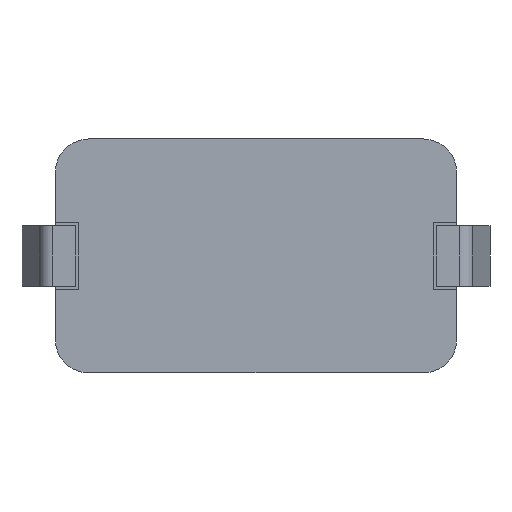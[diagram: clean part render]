
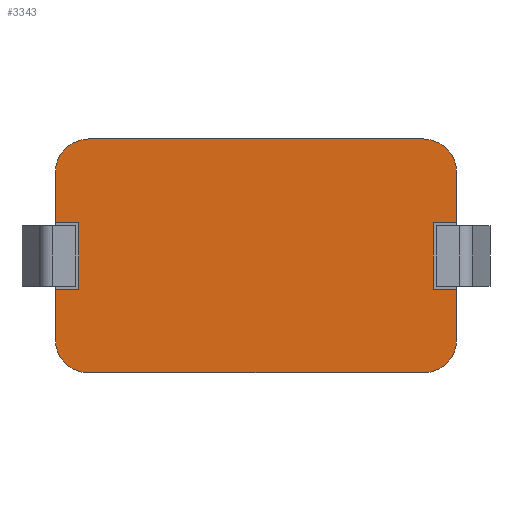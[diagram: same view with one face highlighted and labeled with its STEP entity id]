
A CAD part, front view. The second image highlights one B-rep face of the part: STEP entity #3343.
In plain terms, the highlighted planar face has unit normal (0, -1, 0).
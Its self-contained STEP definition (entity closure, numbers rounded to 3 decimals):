
#1537=DIRECTION('',(-1.,0.,0.));
#1538=VECTOR('',#1537,0.35);
#1539=CARTESIAN_POINT('',(3.,-3.1,-0.5));
#1540=LINE('',#1539,#1538);
#1544=DIRECTION('',(0.,0.,-1.));
#1545=VECTOR('',#1544,0.75);
#1546=CARTESIAN_POINT('',(3.,-3.1,-0.5));
#1547=LINE('',#1546,#1545);
#1551=CARTESIAN_POINT('',(2.5,-3.1,-1.25));
#1552=DIRECTION('',(0.,-1.,0.));
#1553=DIRECTION('',(0.,0.,-1.));
#1554=AXIS2_PLACEMENT_3D('',#1551,#1552,#1553);
#1559=DIRECTION('',(-1.,0.,0.));
#1560=VECTOR('',#1559,5.);
#1561=CARTESIAN_POINT('',(2.5,-3.1,-1.75));
#1562=LINE('',#1561,#1560);
#1566=CARTESIAN_POINT('',(-2.5,-3.1,-1.25));
#1567=DIRECTION('',(0.,-1.,0.));
#1568=DIRECTION('',(-1.,0.,0.));
#1569=AXIS2_PLACEMENT_3D('',#1566,#1567,#1568);
#1574=DIRECTION('',(0.,0.,1.));
#1575=VECTOR('',#1574,0.75);
#1576=CARTESIAN_POINT('',(-3.,-3.1,-1.25));
#1577=LINE('',#1576,#1575);
#1581=DIRECTION('',(1.,0.,0.));
#1582=VECTOR('',#1581,0.35);
#1583=CARTESIAN_POINT('',(-3.,-3.1,-0.5));
#1584=LINE('',#1583,#1582);
#1588=DIRECTION('',(0.,0.,1.));
#1589=VECTOR('',#1588,1.);
#1590=CARTESIAN_POINT('',(-2.65,-3.1,-0.5));
#1591=LINE('',#1590,#1589);
#1595=DIRECTION('',(-1.,0.,0.));
#1596=VECTOR('',#1595,0.35);
#1597=CARTESIAN_POINT('',(-2.65,-3.1,0.5));
#1598=LINE('',#1597,#1596);
#1602=DIRECTION('',(0.,0.,1.));
#1603=VECTOR('',#1602,0.75);
#1604=CARTESIAN_POINT('',(-3.,-3.1,0.5));
#1605=LINE('',#1604,#1603);
#1609=CARTESIAN_POINT('',(-2.5,-3.1,1.25));
#1610=DIRECTION('',(0.,-1.,0.));
#1611=DIRECTION('',(0.,0.,1.));
#1612=AXIS2_PLACEMENT_3D('',#1609,#1610,#1611);
#1617=DIRECTION('',(1.,0.,0.));
#1618=VECTOR('',#1617,5.);
#1619=CARTESIAN_POINT('',(-2.5,-3.1,1.75));
#1620=LINE('',#1619,#1618);
#1624=CARTESIAN_POINT('',(2.5,-3.1,1.25));
#1625=DIRECTION('',(0.,-1.,0.));
#1626=DIRECTION('',(1.,0.,0.));
#1627=AXIS2_PLACEMENT_3D('',#1624,#1625,#1626);
#1632=DIRECTION('',(0.,0.,-1.));
#1633=VECTOR('',#1632,0.75);
#1634=CARTESIAN_POINT('',(3.,-3.1,1.25));
#1635=LINE('',#1634,#1633);
#1639=DIRECTION('',(1.,0.,0.));
#1640=VECTOR('',#1639,0.35);
#1641=CARTESIAN_POINT('',(2.65,-3.1,0.5));
#1642=LINE('',#1641,#1640);
#1646=DIRECTION('',(0.,0.,1.));
#1647=VECTOR('',#1646,1.);
#1648=CARTESIAN_POINT('',(2.65,-3.1,-0.5));
#1649=LINE('',#1648,#1647);
#2253=CARTESIAN_POINT('',(-2.5,-3.1,1.75));
#2254=CARTESIAN_POINT('',(-3.,-3.1,1.25));
#2255=VERTEX_POINT('',#2253);
#2256=VERTEX_POINT('',#2254);
#2261=CARTESIAN_POINT('',(3.,-3.1,1.25));
#2262=CARTESIAN_POINT('',(2.5,-3.1,1.75));
#2263=VERTEX_POINT('',#2261);
#2264=VERTEX_POINT('',#2262);
#2269=CARTESIAN_POINT('',(-3.,-3.1,-1.25));
#2270=CARTESIAN_POINT('',(-2.5,-3.1,-1.75));
#2271=VERTEX_POINT('',#2269);
#2272=VERTEX_POINT('',#2270);
#2277=CARTESIAN_POINT('',(2.5,-3.1,-1.75));
#2278=CARTESIAN_POINT('',(3.,-3.1,-1.25));
#2279=VERTEX_POINT('',#2277);
#2280=VERTEX_POINT('',#2278);
#2373=CARTESIAN_POINT('',(-3.,-3.1,-0.5));
#2374=CARTESIAN_POINT('',(-2.65,-3.1,-0.5));
#2375=VERTEX_POINT('',#2373);
#2376=VERTEX_POINT('',#2374);
#2377=CARTESIAN_POINT('',(-2.65,-3.1,0.5));
#2378=VERTEX_POINT('',#2377);
#2379=CARTESIAN_POINT('',(-3.,-3.1,0.5));
#2380=VERTEX_POINT('',#2379);
#2409=CARTESIAN_POINT('',(2.65,-3.1,-0.5));
#2410=VERTEX_POINT('',#2409);
#2411=CARTESIAN_POINT('',(2.65,-3.1,0.5));
#2412=VERTEX_POINT('',#2411);
#2417=CARTESIAN_POINT('',(3.,-3.1,-0.5));
#2418=VERTEX_POINT('',#2417);
#2419=CARTESIAN_POINT('',(3.,-3.1,0.5));
#2420=VERTEX_POINT('',#2419);
#3305=CARTESIAN_POINT('',(0.,-3.1,0.));
#3306=DIRECTION('',(0.,1.,0.));
#3307=DIRECTION('',(1.,0.,0.));
#3308=AXIS2_PLACEMENT_3D('',#3305,#3306,#3307);
#3309=PLANE('',#3308);
#3311=ORIENTED_EDGE('',*,*,#3310,.F.);
#3313=ORIENTED_EDGE('',*,*,#3312,.T.);
#3315=ORIENTED_EDGE('',*,*,#3314,.F.);
#3317=ORIENTED_EDGE('',*,*,#3316,.T.);
#3319=ORIENTED_EDGE('',*,*,#3318,.F.);
#3321=ORIENTED_EDGE('',*,*,#3320,.T.);
#3323=ORIENTED_EDGE('',*,*,#3322,.T.);
#3325=ORIENTED_EDGE('',*,*,#3324,.T.);
#3327=ORIENTED_EDGE('',*,*,#3326,.T.);
#3329=ORIENTED_EDGE('',*,*,#3328,.T.);
#3330=ORIENTED_EDGE('',*,*,#3279,.F.);
#3332=ORIENTED_EDGE('',*,*,#3331,.T.);
#3334=ORIENTED_EDGE('',*,*,#3333,.F.);
#3336=ORIENTED_EDGE('',*,*,#3335,.T.);
#3338=ORIENTED_EDGE('',*,*,#3337,.F.);
#3340=ORIENTED_EDGE('',*,*,#3339,.F.);
#3341=EDGE_LOOP('',(#3311,#3313,#3315,#3317,#3319,#3321,#3323,#3325,#3327,#3329,
#3330,#3332,#3334,#3336,#3338,#3340));
#3342=FACE_OUTER_BOUND('',#3341,.F.);
#1555=CIRCLE('',#1554,0.5);
#1570=CIRCLE('',#1569,0.5);
#1613=CIRCLE('',#1612,0.5);
#1628=CIRCLE('',#1627,0.5);
#3279=EDGE_CURVE('',#2255,#2256,#1613,.T.);
#3310=EDGE_CURVE('',#2418,#2410,#1540,.T.);
#3312=EDGE_CURVE('',#2418,#2280,#1547,.T.);
#3314=EDGE_CURVE('',#2279,#2280,#1555,.T.);
#3316=EDGE_CURVE('',#2279,#2272,#1562,.T.);
#3318=EDGE_CURVE('',#2271,#2272,#1570,.T.);
#3320=EDGE_CURVE('',#2271,#2375,#1577,.T.);
#3322=EDGE_CURVE('',#2375,#2376,#1584,.T.);
#3324=EDGE_CURVE('',#2376,#2378,#1591,.T.);
#3326=EDGE_CURVE('',#2378,#2380,#1598,.T.);
#3328=EDGE_CURVE('',#2380,#2256,#1605,.T.);
#3331=EDGE_CURVE('',#2255,#2264,#1620,.T.);
#3333=EDGE_CURVE('',#2263,#2264,#1628,.T.);
#3335=EDGE_CURVE('',#2263,#2420,#1635,.T.);
#3337=EDGE_CURVE('',#2412,#2420,#1642,.T.);
#3339=EDGE_CURVE('',#2410,#2412,#1649,.T.);
#3343=ADVANCED_FACE('',(#3342),#3309,.F.);
